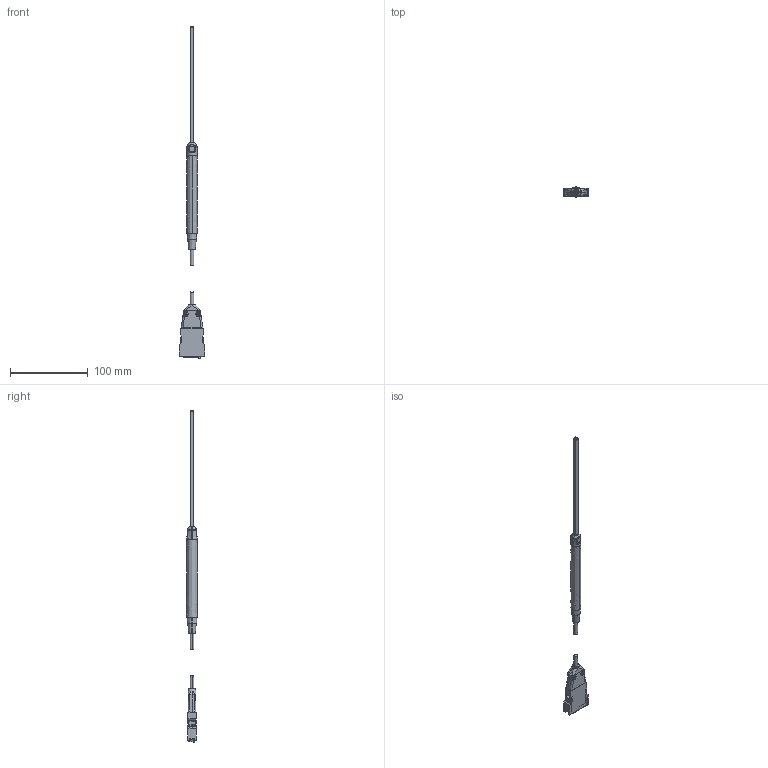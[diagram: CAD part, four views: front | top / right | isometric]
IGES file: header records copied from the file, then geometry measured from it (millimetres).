
Start section: SolidWorks IGES file using NURBS representation for surfaces
Global section: file name: C:\Users\jeremy.bluestein\Desktop\Parts sent for fab\Probe marketing models\FP-2X-250-ZS15.IGS; native system: SolidWorks 2017; preprocessor: SolidWorks 2017; author: jeremy.bluestein; date: 180510.165704; units: millimetre
Bounding box: 33.27 x 13 x 427.39 mm (x, y, z)
Volume: 37046.1 mm3; surface area: 17153.7 mm2
Topology: 2 solids, 2 shells, 877 faces, 4948 edges, 6514 vertices
Faces by surface type: bspline 877
